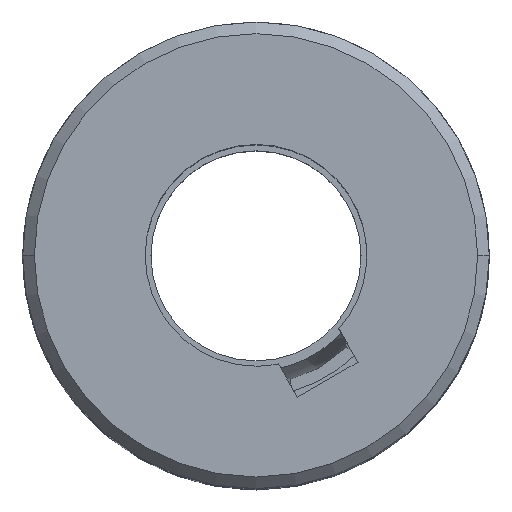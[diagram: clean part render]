
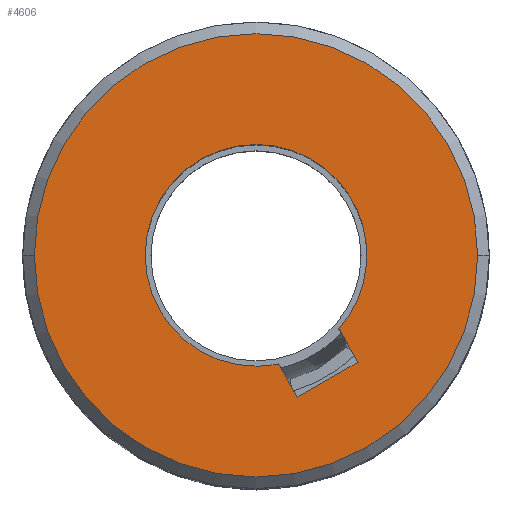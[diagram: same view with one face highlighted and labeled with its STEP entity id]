
A CAD part, top view. The second image highlights one B-rep face of the part: STEP entity #4606.
In plain terms, the highlighted planar face has unit normal (0, 0, 1) as drawn and (0, 0, -1) by its records, which use the part's own axes.
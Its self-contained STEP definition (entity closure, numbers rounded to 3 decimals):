
#127 = AXIS2_PLACEMENT_3D ( 'NONE', #3632, #955, #4540 ) ;
#188 = CARTESIAN_POINT ( 'NONE',  ( -9.152, 8.748, -25. ) ) ;
#216 = CIRCLE ( 'NONE', #595, 9.5 ) ;
#335 = FACE_OUTER_BOUND ( 'NONE', #3996, .T. ) ;
#441 = ORIENTED_EDGE ( 'NONE', *, *, #3174, .T. ) ;
#574 = CARTESIAN_POINT ( 'NONE',  ( 0., -19., -25. ) ) ;
#595 = AXIS2_PLACEMENT_3D ( 'NONE', #4403, #5781, #1798 ) ;
#654 = VERTEX_POINT ( 'NONE', #574 ) ;
#750 = DIRECTION ( 'NONE',  ( 0., 0., 1. ) ) ;
#767 = DIRECTION ( 'NONE',  ( 0., 0., -1. ) ) ;
#771 = ORIENTED_EDGE ( 'NONE', *, *, #3307, .T. ) ;
#869 = DIRECTION ( 'NONE',  ( -0.866, 0.5, 0. ) ) ;
#913 = VERTEX_POINT ( 'NONE', #1931 ) ;
#955 = DIRECTION ( 'NONE',  ( 0., 0., 1. ) ) ;
#1004 = EDGE_LOOP ( 'NONE', ( #441, #1628, #771, #3285, #1705, #3792 ) ) ;
#1189 = CARTESIAN_POINT ( 'NONE',  ( 9.5, 0., -25. ) ) ;
#1196 = CARTESIAN_POINT ( 'NONE',  ( 0., 19., -25. ) ) ;
#1227 = CARTESIAN_POINT ( 'NONE',  ( -12.152, 3.552, -25. ) ) ;
#1549 = CARTESIAN_POINT ( 'NONE',  ( -9.152, 8.748, -25. ) ) ;
#1577 = CARTESIAN_POINT ( 'NONE',  ( 0., 0., -25. ) ) ;
#1578 = LINE ( 'NONE', #188, #3568 ) ;
#1628 = ORIENTED_EDGE ( 'NONE', *, *, #2618, .T. ) ;
#1643 = AXIS2_PLACEMENT_3D ( 'NONE', #1577, #750, #5562 ) ;
#1648 = LINE ( 'NONE', #3454, #4820 ) ;
#1705 = ORIENTED_EDGE ( 'NONE', *, *, #4529, .F. ) ;
#1798 = DIRECTION ( 'NONE',  ( -0.98, 0.201, 0. ) ) ;
#1931 = CARTESIAN_POINT ( 'NONE',  ( -9.306, 1.909, -25. ) ) ;
#2087 = PLANE ( 'NONE',  #3965 ) ;
#2377 = CARTESIAN_POINT ( 'NONE',  ( -9.5, 0., -25. ) ) ;
#2481 = VERTEX_POINT ( 'NONE', #1189 ) ;
#2485 = DIRECTION ( 'NONE',  ( 0., 1., 0. ) ) ;
#2521 = CARTESIAN_POINT ( 'NONE',  ( 0., 0., -25. ) ) ;
#2538 = ORIENTED_EDGE ( 'NONE', *, *, #4474, .T. ) ;
#2618 = EDGE_CURVE ( 'NONE', #5703, #2481, #216, .T. ) ;
#2683 = CIRCLE ( 'NONE', #127, 9.5 ) ;
#2925 = CARTESIAN_POINT ( 'NONE',  ( 0., 0., -25. ) ) ;
#3038 = DIRECTION ( 'NONE',  ( 0., 0., -1. ) ) ;
#3086 = CIRCLE ( 'NONE', #4407, 19. ) ;
#3174 = EDGE_CURVE ( 'NONE', #913, #5703, #2683, .T. ) ;
#3285 = ORIENTED_EDGE ( 'NONE', *, *, #4064, .F. ) ;
#3307 = EDGE_CURVE ( 'NONE', #2481, #4368, #4188, .T. ) ;
#3359 = DIRECTION ( 'NONE',  ( 0.866, -0.5, 0. ) ) ;
#3381 = ORIENTED_EDGE ( 'NONE', *, *, #3523, .F. ) ;
#3454 = CARTESIAN_POINT ( 'NONE',  ( -9.306, 1.909, -25. ) ) ;
#3523 = EDGE_CURVE ( 'NONE', #4644, #654, #3086, .T. ) ;
#3568 = VECTOR ( 'NONE', #3359, 1000. ) ;
#3632 = CARTESIAN_POINT ( 'NONE',  ( 0., 0., -25. ) ) ;
#3792 = ORIENTED_EDGE ( 'NONE', *, *, #5354, .F. ) ;
#3893 = DIRECTION ( 'NONE',  ( 0., -1., 0. ) ) ;
#3965 = AXIS2_PLACEMENT_3D ( 'NONE', #5738, #3038, #3893 ) ;
#3996 = EDGE_LOOP ( 'NONE', ( #2538, #3381 ) ) ;
#4064 = EDGE_CURVE ( 'NONE', #4098, #4368, #1578, .T. ) ;
#4098 = VERTEX_POINT ( 'NONE', #1549 ) ;
#4188 = CIRCLE ( 'NONE', #1643, 9.5 ) ;
#4229 = DIRECTION ( 'NONE',  ( 0., 1., 0. ) ) ;
#4283 = LINE ( 'NONE', #4310, #4904 ) ;
#4310 = CARTESIAN_POINT ( 'NONE',  ( -12.152, 3.552, -25. ) ) ;
#4341 = CARTESIAN_POINT ( 'NONE',  ( -6.306, 7.105, -25. ) ) ;
#4368 = VERTEX_POINT ( 'NONE', #4341 ) ;
#4392 = FACE_BOUND ( 'NONE', #1004, .T. ) ;
#4403 = CARTESIAN_POINT ( 'NONE',  ( 0., 0., -25. ) ) ;
#4407 = AXIS2_PLACEMENT_3D ( 'NONE', #2521, #5142, #4229 ) ;
#4474 = EDGE_CURVE ( 'NONE', #4644, #654, #5746, .T. ) ;
#4529 = EDGE_CURVE ( 'NONE', #5438, #4098, #4283, .T. ) ;
#4540 = DIRECTION ( 'NONE',  ( -0.98, 0.201, 0. ) ) ;
#4606 = ADVANCED_FACE ( 'NONE', ( #4392, #335 ), #2087, .T. ) ;
#4644 = VERTEX_POINT ( 'NONE', #1196 ) ;
#4719 = AXIS2_PLACEMENT_3D ( 'NONE', #2925, #767, #2485 ) ;
#4820 = VECTOR ( 'NONE', #869, 1000. ) ;
#4904 = VECTOR ( 'NONE', #5660, 1000. ) ;
#5142 = DIRECTION ( 'NONE',  ( 0., 0., 1. ) ) ;
#5354 = EDGE_CURVE ( 'NONE', #913, #5438, #1648, .T. ) ;
#5438 = VERTEX_POINT ( 'NONE', #1227 ) ;
#5562 = DIRECTION ( 'NONE',  ( -0.98, 0.201, 0. ) ) ;
#5660 = DIRECTION ( 'NONE',  ( 0.5, 0.866, 0. ) ) ;
#5703 = VERTEX_POINT ( 'NONE', #2377 ) ;
#5738 = CARTESIAN_POINT ( 'NONE',  ( 0., 0., -25. ) ) ;
#5746 = CIRCLE ( 'NONE', #4719, 19. ) ;
#5781 = DIRECTION ( 'NONE',  ( 0., 0., 1. ) ) ;
